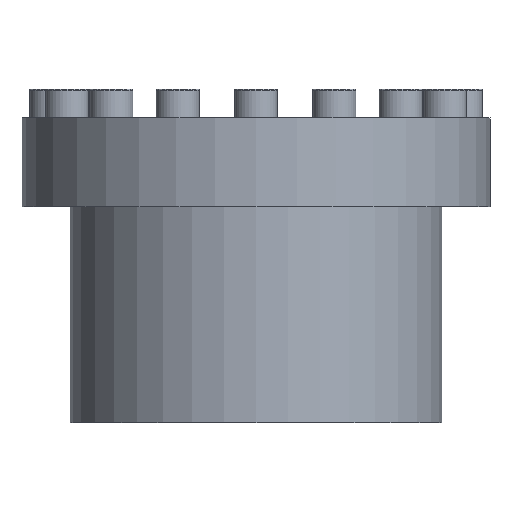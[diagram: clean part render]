
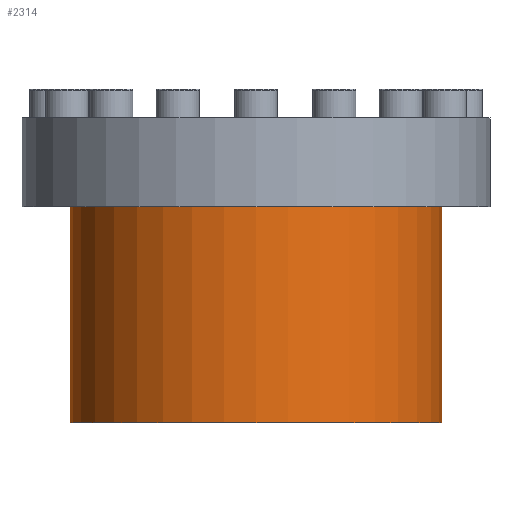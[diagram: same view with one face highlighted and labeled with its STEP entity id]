
A CAD part, front view. The second image highlights one B-rep face of the part: STEP entity #2314.
In plain terms, the highlighted cylindrical face has radius 77.4 mm (diameter 154.8 mm), a partial arc.
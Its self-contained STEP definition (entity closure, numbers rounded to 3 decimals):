
#431 = DIRECTION ( 'NONE',  ( 1., 0., 0. ) ) ;
#513 = CARTESIAN_POINT ( 'NONE',  ( 77.4, 0., 0. ) ) ;
#579 = DIRECTION ( 'NONE',  ( 0., 0., 1. ) ) ;
#729 = EDGE_CURVE ( 'NONE', #1286, #4165, #4030, .T. ) ;
#734 = CARTESIAN_POINT ( 'NONE',  ( -77.4, 0., 0. ) ) ;
#738 = EDGE_LOOP ( 'NONE', ( #2971, #4197, #4169, #896 ) ) ;
#896 = ORIENTED_EDGE ( 'NONE', *, *, #2421, .F. ) ;
#1034 = DIRECTION ( 'NONE',  ( 0., 0., 1. ) ) ;
#1286 = VERTEX_POINT ( 'NONE', #1898 ) ;
#1490 = CARTESIAN_POINT ( 'NONE',  ( 77.4, 0., -37. ) ) ;
#1505 = AXIS2_PLACEMENT_3D ( 'NONE', #2330, #579, #2312 ) ;
#1651 = VECTOR ( 'NONE', #1034, 1000. ) ;
#1727 = EDGE_CURVE ( 'NONE', #3212, #4530, #4569, .T. ) ;
#1898 = CARTESIAN_POINT ( 'NONE',  ( -77.4, 0., -127. ) ) ;
#2173 = AXIS2_PLACEMENT_3D ( 'NONE', #2611, #2668, #431 ) ;
#2312 = DIRECTION ( 'NONE',  ( 1., 0., 0. ) ) ;
#2314 = ADVANCED_FACE ( 'NONE', ( #4353 ), #5097, .T. ) ;
#2330 = CARTESIAN_POINT ( 'NONE',  ( 0., 0., 0. ) ) ;
#2421 = EDGE_CURVE ( 'NONE', #4165, #4530, #5169, .T. ) ;
#2611 = CARTESIAN_POINT ( 'NONE',  ( 0., 0., -127. ) ) ;
#2668 = DIRECTION ( 'NONE',  ( 0., 0., 1. ) ) ;
#2679 = DIRECTION ( 'NONE',  ( 1., 0., 0. ) ) ;
#2805 = VECTOR ( 'NONE', #4518, 1000. ) ;
#2971 = ORIENTED_EDGE ( 'NONE', *, *, #729, .F. ) ;
#3212 = VERTEX_POINT ( 'NONE', #3619 ) ;
#3608 = DIRECTION ( 'NONE',  ( 0., 0., 1. ) ) ;
#3619 = CARTESIAN_POINT ( 'NONE',  ( 77.4, 0., -127. ) ) ;
#4030 = LINE ( 'NONE', #734, #1651 ) ;
#4085 = CARTESIAN_POINT ( 'NONE',  ( 0., 0., -37. ) ) ;
#4165 = VERTEX_POINT ( 'NONE', #5637 ) ;
#4169 = ORIENTED_EDGE ( 'NONE', *, *, #1727, .T. ) ;
#4197 = ORIENTED_EDGE ( 'NONE', *, *, #4938, .T. ) ;
#4353 = FACE_OUTER_BOUND ( 'NONE', #738, .T. ) ;
#4389 = AXIS2_PLACEMENT_3D ( 'NONE', #4085, #3608, #2679 ) ;
#4518 = DIRECTION ( 'NONE',  ( 0., 0., 1. ) ) ;
#4530 = VERTEX_POINT ( 'NONE', #1490 ) ;
#4569 = LINE ( 'NONE', #513, #2805 ) ;
#4596 = CIRCLE ( 'NONE', #2173, 77.4 ) ;
#4938 = EDGE_CURVE ( 'NONE', #1286, #3212, #4596, .T. ) ;
#5097 = CYLINDRICAL_SURFACE ( 'NONE', #1505, 77.4 ) ;
#5169 = CIRCLE ( 'NONE', #4389, 77.4 ) ;
#5637 = CARTESIAN_POINT ( 'NONE',  ( -77.4, 0., -37. ) ) ;
